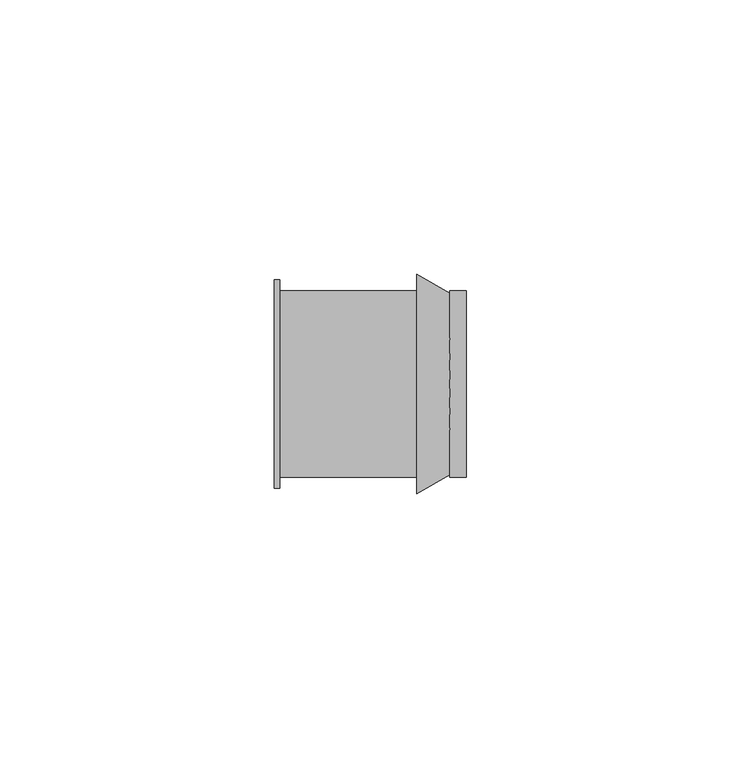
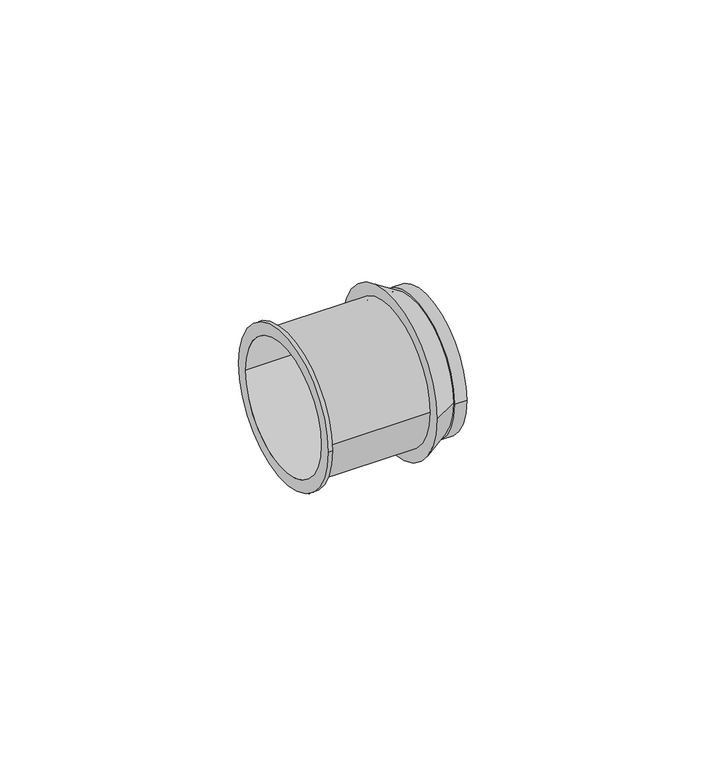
"""IFC4 building model written with IfcOpenShell, lengths in millimetres: pipe fitting geometry, SuperPipe_StopEnd_SPressPlus : SuperPipe_StopEnd_SPressPlus."""

import ifcopenshell
import ifcopenshell.guid

model = None  # the IFC model being written
_history = None  # IfcOwnerHistory: only IFC2X3 demands one
_inside = {}  # id of a spatial element -> (the spatial element, [elements in it])
_under = {}  # id of a project, library or spatial element -> (it, [spatial elements below it])
_declared = {}  # id of a project -> (the project, [libraries it declares])
_typed = {}  # id of a type object -> (the type object, [elements of that type])
_made_of = {}  # id of a material, layer set ... -> (it, [elements and type objects made of it])


def new_model(schema):
    """Start an empty IFC model of exactly this schema.

    Asked for "IFC4X3", IfcOpenShell would pick the latest addendum, in which some entities
    have other attributes; the version numbers below select the first issue.
    IFC2X3 requires an IfcOwnerHistory on every rooted entity: one is made here for all.
    """
    global model, _history
    if schema == "IFC4X3":
        model = ifcopenshell.file(schema_version=(4, 3, 0, 0))
    else:
        model = ifcopenshell.file(schema=schema)
    _inside.clear()
    _under.clear()
    _declared.clear()
    _typed.clear()
    _made_of.clear()
    _history = None
    if model.schema == "IFC2X3":
        org = make("IfcOrganization", Name="unknown")
        user = make(
            "IfcPersonAndOrganization",
            ThePerson=make("IfcPerson", FamilyName="unknown"),
            TheOrganization=org,
        )
        app = make(
            "IfcApplication",
            ApplicationDeveloper=org,
            Version="unknown",
            ApplicationFullName="unknown",
            ApplicationIdentifier="unknown",
        )
        _history = make(
            "IfcOwnerHistory",
            OwningUser=user,
            OwningApplication=app,
            ChangeAction="ADDED",
            CreationDate=0,
        )
    return model


def make(cls, **values):
    """One entity of the class cls with the attributes given. An attribute that is None is left unset."""
    return model.create_entity(
        cls, **{name: value for name, value in values.items() if value is not None}
    )


def rooted(cls, **values):
    """An entity with a GlobalId (a new one), such as an element, a storey or a relation."""
    return make(cls, GlobalId=ifcopenshell.guid.new(), OwnerHistory=_history, **values)


def si_unit(unit_type, name, prefix=None):
    """IfcSIUnit, for example si_unit("LENGTHUNIT", "METRE", prefix="MILLI")."""
    return make("IfcSIUnit", UnitType=unit_type, Prefix=prefix, Name=name)


def assignment(units):
    """IfcUnitAssignment: the units of a project."""
    return None if units is None else make("IfcUnitAssignment", Units=units)


def point(xyz):
    """IfcCartesianPoint."""
    return None if xyz is None else make("IfcCartesianPoint", Coordinates=xyz)


def direction(xyz):
    """IfcDirection."""
    return None if xyz is None else make("IfcDirection", DirectionRatios=xyz)


def frame(location, z_axis=None, x_axis=None):
    """IfcAxis2Placement3D, a coordinate frame: its origin and axes. An axis left out is left unset."""
    return make(
        "IfcAxis2Placement3D",
        Location=point(location),
        Axis=direction(z_axis),
        RefDirection=direction(x_axis),
    )


def frame_2d(location, x_axis=None):
    """IfcAxis2Placement2D, a coordinate frame in the plane: its origin and x axis."""
    return make(
        "IfcAxis2Placement2D", Location=point(location), RefDirection=direction(x_axis)
    )


def origin():
    """The frame at (0, 0, 0) with its axes left unset."""
    return frame((0.0, 0.0, 0.0))


def origin_2d():
    """The frame at (0, 0) in the plane with its x axis left unset."""
    return frame_2d((0.0, 0.0))


def place(relative_to, where):
    """IfcLocalPlacement: puts the frame where relative to a parent placement (None: the world)."""
    return make(
        "IfcLocalPlacement", PlacementRelTo=relative_to, RelativePlacement=where
    )


def context(
    kind, dimensions, precision=None, world=None, true_north=None, identifier=None
):
    """IfcGeometricRepresentationContext, for example the 3D "Model" context."""
    return make(
        "IfcGeometricRepresentationContext",
        ContextIdentifier=identifier,
        ContextType=kind,
        CoordinateSpaceDimension=dimensions,
        Precision=precision,
        WorldCoordinateSystem=world,
        TrueNorth=true_north,
    )


def project(units=None, contexts=None):
    """IfcProject with its units and contexts."""
    return rooted(
        "IfcProject",
        Name="project",
        RepresentationContexts=contexts,
        UnitsInContext=assignment(units),
    )


def spatial(cls, under=None, at=None, **own):
    """A site, building, storey or space (cls), placed at a placement, below another one or the project."""
    s = rooted(cls, ObjectPlacement=at, **own)
    if under is not None:
        _under.setdefault(under.id(), (under, []))[1].append(s)
    return s


def polyline(points):
    """IfcPolyline through the points."""
    return make("IfcPolyline", Points=[point(p) for p in points])


def circle_curve(where, radius):
    """IfcCircle in the frame where."""
    return make("IfcCircle", Position=where, Radius=radius)


def trimmed(basis, trim1, trim2, sense, master):
    """IfcTrimmedCurve: the piece of a basis curve between two trims."""
    return make(
        "IfcTrimmedCurve",
        BasisCurve=basis,
        Trim1=trim1,
        Trim2=trim2,
        SenseAgreement=sense,
        MasterRepresentation=master,
    )


def segment(curve, same_sense, transition):
    """IfcCompositeCurveSegment."""
    return make(
        "IfcCompositeCurveSegment",
        Transition=transition,
        SameSense=same_sense,
        ParentCurve=curve,
    )


def composite_curve(segments, self_intersect=None):
    """IfcCompositeCurve: segments joined end to end."""
    return make("IfcCompositeCurve", Segments=segments, SelfIntersect=self_intersect)


def outline(outer, holes=None, kind="AREA"):
    """IfcArbitraryClosedProfileDef: a profile drawn as a closed curve; with holes, ...WithVoids."""
    if holes is None:
        return make("IfcArbitraryClosedProfileDef", ProfileType=kind, OuterCurve=outer)
    return make(
        "IfcArbitraryProfileDefWithVoids",
        ProfileType=kind,
        OuterCurve=outer,
        InnerCurves=holes,
    )


def extrude(swept, where, along, depth):
    """IfcExtrudedAreaSolid: the profile swept, set in the frame where, extruded along a direction by depth."""
    return make(
        "IfcExtrudedAreaSolid",
        SweptArea=swept,
        Position=where,
        ExtrudedDirection=direction(along),
        Depth=depth,
    )


def shape(context_of_items, identifier, shape_type, items):
    """IfcShapeRepresentation: the items that make up one representation, for example the "Body"."""
    return make(
        "IfcShapeRepresentation",
        ContextOfItems=context_of_items,
        RepresentationIdentifier=identifier,
        RepresentationType=shape_type,
        Items=items,
    )


def source(mapping_origin, context_of_items, identifier, shape_type, items):
    """IfcRepresentationMap: a shape defined once, which mapped items show again and again."""
    return make(
        "IfcRepresentationMap",
        MappingOrigin=mapping_origin,
        MappedRepresentation=shape(context_of_items, identifier, shape_type, items),
    )


def transform(
    local_origin,
    x_axis=None,
    y_axis=None,
    z_axis=None,
    scale=None,
    scale2=None,
    scale3=None,
    uniform=True,
):
    """IfcCartesianTransformationOperator3D, or its non-uniform kind. x_axis, y_axis, z_axis: its Axis1, 2, 3."""
    if uniform:
        return make(
            "IfcCartesianTransformationOperator3D",
            Axis1=direction(x_axis),
            Axis2=direction(y_axis),
            LocalOrigin=point(local_origin),
            Scale=scale,
            Axis3=direction(z_axis),
        )
    return make(
        "IfcCartesianTransformationOperator3DnonUniform",
        Axis1=direction(x_axis),
        Axis2=direction(y_axis),
        LocalOrigin=point(local_origin),
        Scale=scale,
        Axis3=direction(z_axis),
        Scale2=scale2,
        Scale3=scale3,
    )


def mapped(mapping_source, mapping_target):
    """IfcMappedItem: shows the shape of a source again, moved by a transform."""
    return make(
        "IfcMappedItem", MappingSource=mapping_source, MappingTarget=mapping_target
    )


def made_of(thing, what):
    """Note that an element or type object is made of a material, layer set ...; save() writes the relation."""
    if what is not None:
        _made_of.setdefault(what.id(), (what, []))[1].append(thing)
    return thing


def element(
    cls,
    number,
    at=None,
    inside=None,
    cuts=None,
    type_object=None,
    material=None,
    context=None,
    identifier="Body",
    shape_type=None,
    held_by="IfcProductDefinitionShape",
    body=None,
    shapes=None,
    **own,
):
    """One element of the class cls, such as IfcWall. Its Tag is "e" and its number.

    at: its placement. inside: the storey or other place that contains it. cuts: it is an
    opening in that element (IfcRelVoidsElement). A single representation is given by context,
    identifier, shape_type and body (its items); several are given by shapes. held_by: the class
    of the entity that holds the representations. save() writes the other relations.
    """
    e = rooted(cls, Tag="e%d" % number, ObjectPlacement=at, **own)
    if body is not None:
        shapes = [shape(context, identifier, shape_type, body)]
    if shapes is not None:
        e.Representation = make(held_by, Representations=shapes)
    if inside is not None:
        _inside.setdefault(inside.id(), (inside, []))[1].append(e)
    if cuts is not None:
        rooted(
            "IfcRelVoidsElement", RelatingBuildingElement=cuts, RelatedOpeningElement=e
        )
    if type_object is not None:
        _typed.setdefault(type_object.id(), (type_object, []))[1].append(e)
    return made_of(e, material)


def aggregate(whole, parts):
    """IfcRelAggregates: a whole, such as a stair, and the parts it consists of."""
    return rooted("IfcRelAggregates", RelatingObject=whole, RelatedObjects=parts)


def save(model, path):
    """Write the relations noted so far, then the file.

    IfcRelAggregates (storeys below a building ...), IfcRelContainedInSpatialStructure (elements
    in a storey), IfcRelDefinesByType, IfcRelAssociatesMaterial and IfcRelDeclares: one each for
    every whole, place, type object, material and project.
    """
    for whole, parts in _under.values():
        aggregate(whole, parts)
    for where, things in _inside.values():
        rooted(
            "IfcRelContainedInSpatialStructure",
            RelatedElements=things,
            RelatingStructure=where,
        )
    for kind, things in _typed.values():
        rooted("IfcRelDefinesByType", RelatedObjects=things, RelatingType=kind)
    for what, things in _made_of.values():
        rooted("IfcRelAssociatesMaterial", RelatedObjects=things, RelatingMaterial=what)
    for by, libraries in _declared.values():
        rooted("IfcRelDeclares", RelatingContext=by, RelatedDefinitions=libraries)
    model.write(path)


def plane_surface(at):
    """IfcPlane: the flat surface through the origin of the frame at, square to its z axis."""
    return make("IfcPlane", Position=at)


def cylinder_surface(at, radius):
    """IfcCylindricalSurface: all points at the distance radius from the z axis of the frame at."""
    return make("IfcCylindricalSurface", Position=at, Radius=radius)


def revolved_surface(curve, axis_point, axis_direction):
    """IfcSurfaceOfRevolution: the curve turned about the line through axis_point along axis_direction."""
    return make(
        "IfcSurfaceOfRevolution",
        SweptCurve=make("IfcArbitraryOpenProfileDef", ProfileType="CURVE", Curve=curve),
        AxisPosition=make("IfcAxis1Placement", Location=point(axis_point), Axis=direction(axis_direction)),
    )


def advanced_brep(points, edges, surfaces, faces):
    """IfcAdvancedBrep: a solid bounded by faces that lie on surfaces and meet in shared edges.

    An edge is (start, end): straight between two places in points (the first is 0);
    or (start, end, curve); or (start, end, curve, False) where it runs against its curve.
    A face is (place in surfaces, loops), or (place, loops, False) where it looks against
    its surface's normal. A loop lists edges by number (the first is 1), with a minus sign
    where the edge is run from its end to its start. The first loop is the outer one.
    """
    corners = [point(p) for p in points]
    vertices = [make("IfcVertexPoint", VertexGeometry=c) for c in corners]
    made = []
    for start, end, *more in edges:
        made.append(
            make(
                "IfcEdgeCurve",
                EdgeStart=vertices[start],
                EdgeEnd=vertices[end],
                EdgeGeometry=more[0] if more else make("IfcPolyline", Points=[corners[start], corners[end]]),
                SameSense=more[1] if len(more) > 1 else True,
            )
        )
    hull = []
    for where, loops, *sense in faces:
        bounds = []
        for j, loop in enumerate(loops):
            ring = [make("IfcOrientedEdge", EdgeElement=made[abs(k) - 1], Orientation=k > 0) for k in loop]
            bounds.append(
                make(
                    "IfcFaceOuterBound" if j == 0 else "IfcFaceBound",
                    Bound=make("IfcEdgeLoop", EdgeList=ring),
                    Orientation=True,
                )
            )
        hull.append(make("IfcAdvancedFace", Bounds=bounds, FaceSurface=surfaces[where], SameSense=sense[0] if sense else True))
    return make("IfcAdvancedBrep", Outer=make("IfcClosedShell", CfsFaces=hull))


def pipe_fitting_4a88b6a6(model_context):
    return source(origin(), model_context, "Body", "SolidModel", [
        advanced_brep(
        [(-32.0, -19.0, 0.0), (-32.0, 19.0, 0.0), (-32.0, -16.0, 0.0), (-32.0, 16.0, 0.0), (-6.0, -17.0, 0.0), (-6.0, 17.0, 0.0), (-6.0, -16.0, 0.0), (-6.0, 16.0, 0.0), (-31.0, -16.0, 0.0), (-31.0, 16.0, 0.0), (-31.0, 17.0, 0.0), (-31.0, -17.0, 0.0), (-31.0, -19.0, 0.0), (-31.0, 19.0, 0.0)],
        [
            (0, 1, circle_curve(frame((-32.0, 0.0, 0.0), z_axis=(-1.0, 0.0, 0.0), x_axis=(0.0, 1.0, 0.0)), 19.0)),
            (1, 0, circle_curve(frame((-32.0, 0.0, 0.0), z_axis=(-1.0, 0.0, 0.0), x_axis=(0.0, 1.0, 0.0)), 19.0)),
            (2, 3, circle_curve(frame((-32.0, 0.0, 0.0), z_axis=(1.0, 0.0, 0.0), x_axis=(0.0, 1.0, 0.0)), 16.0)),
            (3, 2, circle_curve(frame((-32.0, 0.0, 0.0), z_axis=(1.0, 0.0, 0.0), x_axis=(0.0, 1.0, 0.0)), 16.0)),
            (4, 5, circle_curve(frame((-6.0, 0.0, 0.0), z_axis=(1.0, 0.0, 0.0), x_axis=(0.0, 1.0, 0.0)), 17.0)),
            (5, 4, circle_curve(frame((-6.0, 0.0, 0.0), z_axis=(1.0, 0.0, 0.0), x_axis=(0.0, 1.0, 0.0)), 17.0)),
            (6, 7, circle_curve(frame((-6.0, 0.0, 0.0), z_axis=(-1.0, 0.0, 0.0), x_axis=(0.0, 1.0, 0.0)), 16.0)),
            (7, 6, circle_curve(frame((-6.0, 0.0, 0.0), z_axis=(-1.0, 0.0, 0.0), x_axis=(0.0, 1.0, 0.0)), 16.0)),
            (2, 8),
            (8, 6),
            (7, 9),
            (9, 3),
            (5, 10),
            (10, 11, circle_curve(frame((-31.0, 0.0, 0.0), z_axis=(1.0, 0.0, 0.0), x_axis=(0.0, 1.0, 0.0)), 17.0)),
            (11, 4),
            (11, 10, circle_curve(frame((-31.0, 0.0, 0.0), z_axis=(1.0, 0.0, 0.0), x_axis=(0.0, 1.0, 0.0)), 17.0)),
            (12, 13, circle_curve(frame((-31.0, 0.0, 0.0), z_axis=(1.0, 0.0, 0.0), x_axis=(0.0, 1.0, 0.0)), 19.0)),
            (13, 12, circle_curve(frame((-31.0, 0.0, 0.0), z_axis=(1.0, 0.0, 0.0), x_axis=(0.0, 1.0, 0.0)), 19.0)),
            (0, 12),
            (13, 1),
        ],
        [
            plane_surface(frame((-32.0, 0.0, 0.0), z_axis=(-1.0, 0.0, 0.0), x_axis=(0.0, 0.0, 1.0))),
            plane_surface(frame((-6.0, 0.0, 0.0), z_axis=(1.0, 0.0, 0.0), x_axis=(0.0, 0.0, 1.0))),
            revolved_surface(polyline([(-6.0, 16.0, 0.0), (-32.0, 16.0, 0.0)]), (-32.0, 0.0, 0.0), (1.0, 0.0, 0.0)),
            cylinder_surface(frame((-32.0, 0.0, 0.0), z_axis=(-1.0, 0.0, 0.0), x_axis=(0.0, 1.0, 0.0)), 17.0),
            plane_surface(frame((-31.0, 0.0, 0.0), z_axis=(1.0, 0.0, 0.0), x_axis=(0.0, 0.0, 1.0))),
            cylinder_surface(frame((-32.0, 0.0, 0.0), z_axis=(-1.0, 0.0, 0.0), x_axis=(0.0, 1.0, 0.0)), 19.0),
        ],
        [
            (0, [[1, 2], [3, 4]]),
            (1, [[5, 6], [7, 8]]),
            (2, [[-3, 9, 10, -8, 11, 12]]),
            (2, [[-4, -12, -11, -7, -10, -9]]),
            (3, [[-6, 13, 14, 15]]),
            (3, [[-5, -15, 16, -13]]),
            (4, [[17, 18], [-14, -16]]),
            (5, [[-1, 19, -18, 20]]),
            (5, [[-2, -20, -17, -19]]),
        ],
    ),
        advanced_brep(
        [(0.0, -16.5, 0.0), (0.0, 16.5, 0.0), (0.0, 16.0, 0.0), (0.0, -16.0, 0.0), (-6.0, -20.0, 0.0), (-6.0, 20.0, 0.0), (-6.0, -16.0, 0.0), (-6.0, 16.0, 0.0)],
        [
            (0, 1, circle_curve(frame((0.0, 0.0, 0.0), z_axis=(1.0, 0.0, 0.0), x_axis=(0.0, -1.0, 0.0)), 16.5)),
            (1, 0, circle_curve(frame((0.0, 0.0, 0.0), z_axis=(1.0, 0.0, 0.0), x_axis=(0.0, 1.0, 0.0)), 16.5)),
            (2, 3, circle_curve(frame((0.0, 0.0, 0.0), z_axis=(-1.0, 0.0, 0.0), x_axis=(0.0, 1.0, 0.0)), 16.0)),
            (3, 2, circle_curve(frame((0.0, 0.0, 0.0), z_axis=(-1.0, 0.0, 0.0), x_axis=(0.0, 1.0, 0.0)), 16.0)),
            (4, 5, circle_curve(frame((-6.0, 0.0, 0.0), z_axis=(-1.0, 0.0, 0.0), x_axis=(0.0, 1.0, 0.0)), 20.0)),
            (5, 4, circle_curve(frame((-6.0, 0.0, 0.0), z_axis=(-1.0, 0.0, 0.0), x_axis=(0.0, -1.0, 0.0)), 20.0)),
            (6, 7, circle_curve(frame((-6.0, 0.0, 0.0), z_axis=(1.0, 0.0, 0.0), x_axis=(0.0, 1.0, 0.0)), 16.0)),
            (7, 6, circle_curve(frame((-6.0, 0.0, 0.0), z_axis=(1.0, 0.0, 0.0), x_axis=(0.0, 1.0, 0.0)), 16.0)),
            (0, 4),
            (5, 1),
            (2, 7),
            (6, 3),
        ],
        [
            plane_surface(frame((0.0, 0.0, 0.0), z_axis=(1.0, 0.0, 0.0), x_axis=(0.0, 0.0, -1.0))),
            plane_surface(frame((-6.0, 0.0, 0.0), z_axis=(-1.0, 0.0, 0.0), x_axis=(0.0, 0.0, -1.0))),
            revolved_surface(polyline([(0.0, -16.500000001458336, 0.0), (-5.9999999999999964, -20.0, 0.0)]), (28.2857143, 0.0, 0.0), (-1.0, 0.0, 0.0)),
            revolved_surface(polyline([(0.0, 16.500000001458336, 0.0), (-5.9999999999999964, 20.0, 0.0)]), (28.2857143, 0.0, 0.0), (-1.0, 0.0, 0.0)),
            revolved_surface(polyline([(0.0, 16.0, 0.0), (-6.0, 16.0, 0.0)]), (-6.0, 0.0, 0.0), (1.0, 0.0, 0.0)),
        ],
        [
            (0, [[1, 2], [3, 4]]),
            (1, [[5, 6], [7, 8]]),
            (2, [[-1, 9, -6, 10]]),
            (3, [[-2, -10, -5, -9]]),
            (4, [[11, -7, 12, -3]]),
            (4, [[-11, -4, -12, -8]]),
        ],
    ),
        extrude(outline(composite_curve([segment(trimmed(circle_curve(origin_2d(), 17.0), [point((-17.0, 0.0))], [point((17.0, 0.0))], False, "CARTESIAN"), True, "CONTINUOUS"), segment(trimmed(circle_curve(origin_2d(), 17.0), [point((17.0, 0.0))], [point((-17.0, 0.0))], False, "CARTESIAN"), True, "CONTINUOUS")], self_intersect=False)), frame((0.0, 0.0, 0.0), z_axis=(1.0, 0.0, 0.0), x_axis=(0.0, 1.0, 0.0)), (0.0, 0.0, 1.0), 3.0),
    ])


if __name__ == "__main__":
    model = new_model("IFC4")
    model_context = context("Model", 3, world=origin())
    ifc_project = project(units=[si_unit("LENGTHUNIT", "METRE", prefix="MILLI")], contexts=[model_context])
    site = spatial("IfcSite", under=ifc_project)
    building = spatial("IfcBuilding", under=site)
    placement = place(None, origin())
    pipe_fitting_shape = pipe_fitting_4a88b6a6(model_context)
    element("IfcPipeFitting", 1, ObjectType="SuperPipe_StopEnd_SPressPlus : SuperPipe_StopEnd_SPressPlus", at=placement, inside=building, context=model_context, shape_type="MappedRepresentation", body=[
        mapped(pipe_fitting_shape, transform((0.0, 0.0, 0.0), x_axis=(1.0, 0.0, 0.0), y_axis=(0.0, 1.0, 0.0), z_axis=(0.0, 0.0, 1.0))),
    ])
    save(model, "model.ifc")
